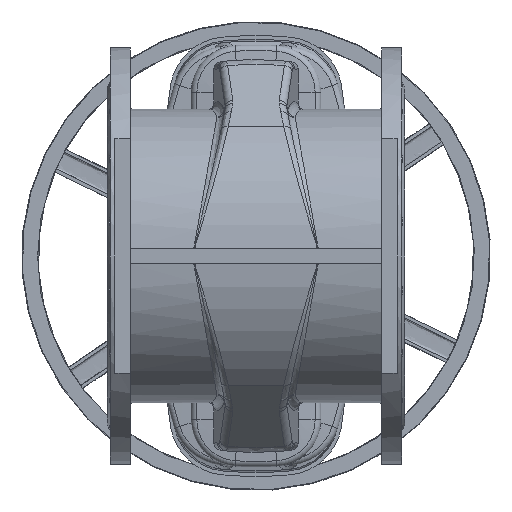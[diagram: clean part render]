
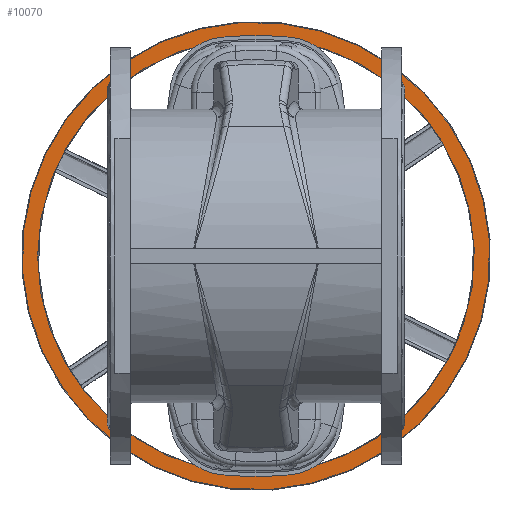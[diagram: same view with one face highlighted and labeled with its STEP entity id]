
A CAD part, front view. The second image highlights one B-rep face of the part: STEP entity #10070.
In plain terms, the highlighted planar face has unit normal (0, -1, 0).
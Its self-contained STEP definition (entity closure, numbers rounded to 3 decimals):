
#1990 = EDGE_CURVE ( 'NONE', #27288, #27288, #19004, .T. ) ;
#1991 = EDGE_CURVE ( 'NONE', #27289, #27289, #19014, .T. ) ;
#4171 = CARTESIAN_POINT ( 'NONE',  ( 0., 1209., 0. ) ) ;
#4172 = DIRECTION ( 'NONE',  ( 0., -1., 0. ) ) ;
#4173 = DIRECTION ( 'NONE',  ( -1., 0., 0. ) ) ;
#4175 = CARTESIAN_POINT ( 'NONE',  ( 0., 1209., 0. ) ) ;
#4176 = DIRECTION ( 'NONE',  ( 0., 1., 0. ) ) ;
#4177 = DIRECTION ( 'NONE',  ( -0.899, 0., 0.438 ) ) ;
#10070 = ADVANCED_FACE ( 'NONE', ( #12050, #12054 ), #36455, .F. ) ;
#12050 = FACE_OUTER_BOUND ( 'NONE', #22274, .T. ) ;
#12054 = FACE_BOUND ( 'NONE', #22277, .T. ) ;
#14846 = AXIS2_PLACEMENT_3D ( 'NONE', #4171, #4172, #4173 ) ;
#14847 = AXIS2_PLACEMENT_3D ( 'NONE', #4175, #4176, #4177 ) ;
#15168 = AXIS2_PLACEMENT_3D ( 'NONE', #36451, #36458, #36460 ) ;
#19004 = CIRCLE ( 'NONE', #14846, 279.221 ) ;
#19014 = CIRCLE ( 'NONE', #14847, 299.116 ) ;
#21789 = ORIENTED_EDGE ( 'NONE', *, *, #1991, .F. ) ;
#21790 = ORIENTED_EDGE ( 'NONE', *, *, #1990, .F. ) ;
#22274 = EDGE_LOOP ( 'NONE', ( #21789 ) ) ;
#22277 = EDGE_LOOP ( 'NONE', ( #21790 ) ) ;
#25006 = CARTESIAN_POINT ( 'NONE',  ( -279.221, 1209., 0. ) ) ;
#25007 = CARTESIAN_POINT ( 'NONE',  ( -268.893, 1209., 131.022 ) ) ;
#27288 = VERTEX_POINT ( 'NONE', #25006 ) ;
#27289 = VERTEX_POINT ( 'NONE', #25007 ) ;
#36451 = CARTESIAN_POINT ( 'NONE',  ( 265.297, 1209., -129.27 ) ) ;
#36455 = PLANE ( 'NONE',  #15168 ) ;
#36458 = DIRECTION ( 'NONE',  ( 0., 1., 0. ) ) ;
#36460 = DIRECTION ( 'NONE',  ( -0.899, 0., 0.438 ) ) ;
